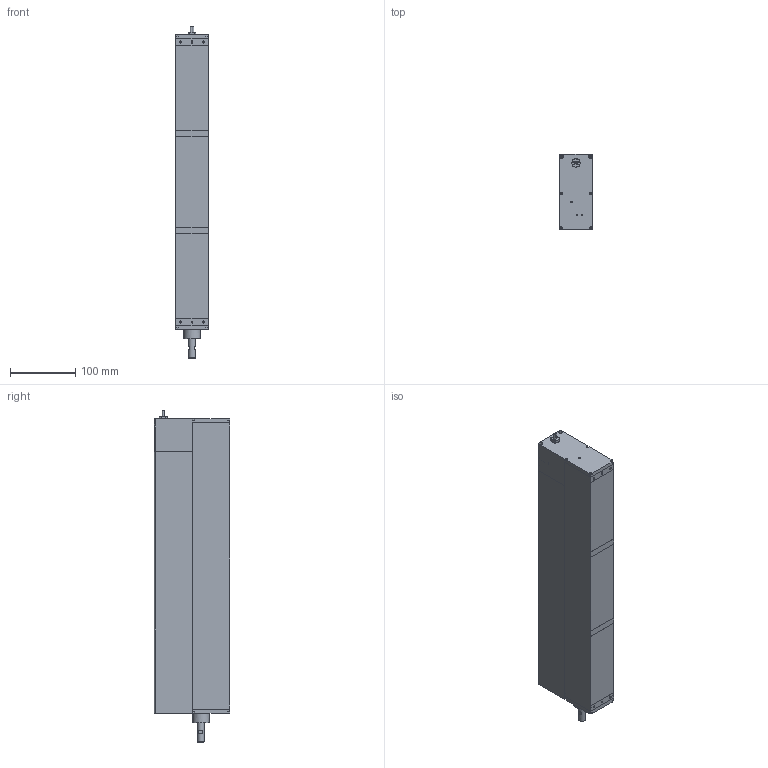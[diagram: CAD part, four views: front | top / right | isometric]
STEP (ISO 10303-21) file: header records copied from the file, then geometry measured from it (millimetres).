
FILE_DESCRIPTION((''),'2;1');
FILE_NAME('E:\SMAC-CAD\LCA\LCA 50\LCA 50-250\ASSY\LCA50-250.stp','2012-09-21T09:56:30',('mark'),(''),'Autodesk Inventor 2008','Autodesk Inventor 2008','');
FILE_SCHEMA(('AUTOMOTIVE_DESIGN { 1 0 10303 214 1 1 1 1 }'));
Length unit declared in the file: millimetre
Products named in the file (12): LCA50-250; BODY-LCA50-250-1; LCA 50 FRONT PLATE; BUSHING RETAINER 100 EXT NOSE; FRELON BUSHING EXT NOSE; FEMALE SHAFT-250 EXT NOSE; STOPPER; CONN COVER; LCA50-250 MAG ASSY.; MAG HSG 50-250-1; C-POLE 50-250-1 V2; CABLE-G
Assembly tree (11 placements, depth 3):
  LCA50-250
    BODY-LCA50-250-1
    LCA 50 FRONT PLATE
    BUSHING RETAINER 100 EXT NOSE
    FRELON BUSHING EXT NOSE
    FEMALE SHAFT-250 EXT NOSE
    STOPPER
    CONN COVER
    LCA50-250 MAG ASSY.
      MAG HSG 50-250-1
    C-POLE 50-250-1 V2
    CABLE-G
Bounding box: 50 x 115.1 x 507.5 mm (x, y, z)
Volume: 1057868.5 mm3; surface area: 402803.2 mm2
Topology: 10 solids, 10 shells, 374 faces, 1017 edges, 671 vertices
Faces by surface type: plane 168, bspline 137, cylinder 56, torus 8, cone 5
Full cylindrical faces by diameter (mm): 2.9 x1, 3 x3, 4.5 x1, 10 x2, 10.5 x1, 12.3 x1, 12.5 x2, 16.5 x1, 25.5 x1
Entity records: 12935 total; most frequent: CARTESIAN_POINT 4172, DIRECTION 1650, ORIENTED_EDGE 1628, EDGE_CURVE 814, EDGE_LOOP 615, VERTEX_POINT 593, AXIS2_PLACEMENT_3D 585, VECTOR 480
